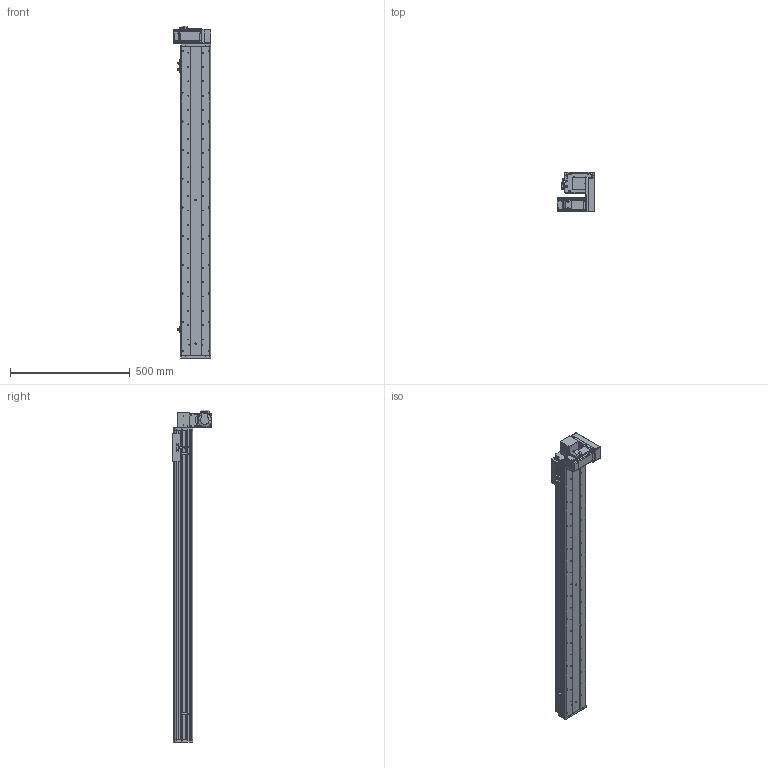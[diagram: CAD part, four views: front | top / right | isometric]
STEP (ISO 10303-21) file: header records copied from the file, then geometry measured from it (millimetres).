
FILE_DESCRIPTION (( 'STEP AP214' ), '1' );
FILE_NAME ('KSD125B-S1100-MLD-CM.STEP', '2017-10-21T02:56:40', ( '微软用户' ), ( '微软中国' ), 'SwSTEP 2.0', 'SolidWorks 2014', '' );
FILE_SCHEMA (( 'AUTOMOTIVE_DESIGN' ));
Length unit declared in the file: millimetre
Products named in the file (17): 悵誘欶奻狟殏; 100宽马达安装板连板上下折丝杆同步带; HTPA30S3M150_A_H6_a佪裝蚚; HTPA30S3M150_A_H6_a萇儂蚚; 100宽马达安装板同步带左; KSD125模组1100行程同步带-防尘盖; 125模组1100行程同步带-底板; MHMD042G1CA_2_03; KSD125模组同步带-防撞垫2; 覜茼え68遵圉猾敕; U倰嫖萇假蚾璃; U倰嫖萇EEㄜSX672; KSD125模组同步带-防撞垫1; 前端板-125宽模组同步带; 125模组同步带-尾端板1; KSD125模组同步带-滑动座1; KSD125B-S1100-MLD-CM
Assembly tree (20 placements, depth 2):
  KSD125B-S1100-MLD-CM
    KSD125模组同步带-滑动座1
    125模组同步带-尾端板1
    前端板-125宽模组同步带
    KSD125模组同步带-防撞垫1
    U倰嫖萇EEㄜSX672  x3
    U倰嫖萇假蚾璃  x3
    覜茼え68遵圉猾敕
    KSD125模组同步带-防撞垫2
    MHMD042G1CA_2_03
    125模组1100行程同步带-底板
    KSD125模组1100行程同步带-防尘盖
    100宽马达安装板同步带左
    HTPA30S3M150_A_H6_a萇儂蚚
    HTPA30S3M150_A_H6_a佪裝蚚
    100宽马达安装板连板上下折丝杆同步带
    悵誘欶奻狟殏
Bounding box: 155 x 166.5 x 1389 mm (x, y, z)
Volume: 4192639.2 mm3; surface area: 1404653 mm2
Topology: 19 solids, 22 shells, 2329 faces, 6751 edges, 4462 vertices
Faces by surface type: cylinder 1472, plane 730, cone 105, bspline 22
Entity records: 83093 total; most frequent: CARTESIAN_POINT 16377, DIRECTION 12912, ORIENTED_EDGE 12022, EDGE_CURVE 6089, AXIS2_PLACEMENT_3D 5001, VERTEX_POINT 4054, VECTOR 2910, LINE 2910
